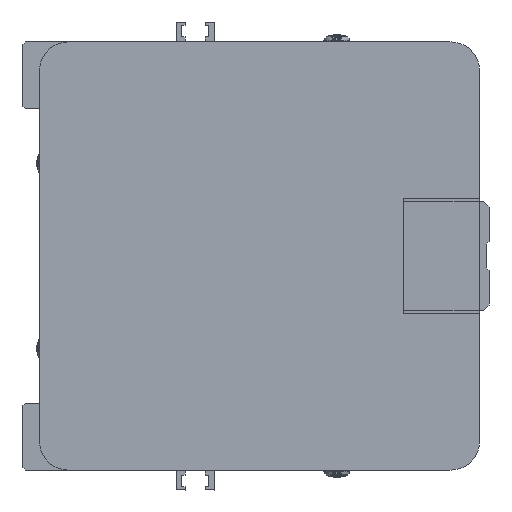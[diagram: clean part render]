
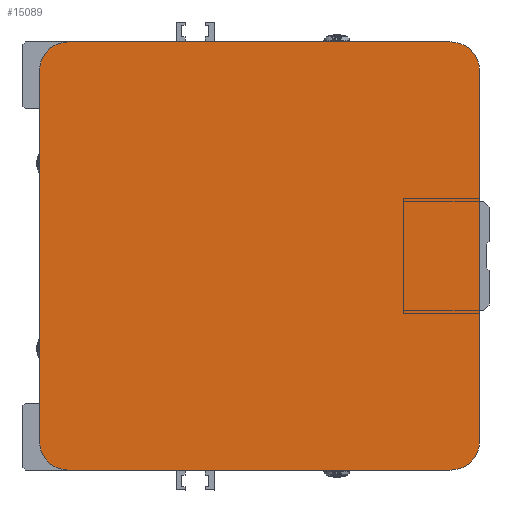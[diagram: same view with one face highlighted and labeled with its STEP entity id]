
A CAD part, left-side view. The second image highlights one B-rep face of the part: STEP entity #15089.
In plain terms, the highlighted planar face has unit normal (-1, 0, 0) as drawn and (0, 0, -1) by its records, which use the part's own axes.
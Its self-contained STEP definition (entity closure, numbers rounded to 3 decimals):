
#1201=CIRCLE('',#16093,6.);
#1203=CIRCLE('',#16098,6.);
#1204=CIRCLE('',#16104,6.);
#1205=CIRCLE('',#16106,6.);
#2110=FACE_OUTER_BOUND('',#3009,.T.);
#3009=EDGE_LOOP('',(#10559,#10560,#10561,#10562,#10563,#10564,#10565,#10566));
#4149=LINE('',#21646,#5394);
#4167=LINE('',#21685,#5412);
#4171=LINE('',#21697,#5416);
#4173=LINE('',#21704,#5418);
#5394=VECTOR('',#17697,78.);
#5412=VECTOR('',#17731,80.5);
#5416=VECTOR('',#17745,80.5);
#5418=VECTOR('',#17753,78.);
#6638=VERTEX_POINT('',#21640);
#6639=VERTEX_POINT('',#21644);
#6651=VERTEX_POINT('',#21682);
#6652=VERTEX_POINT('',#21684);
#6654=VERTEX_POINT('',#21693);
#6655=VERTEX_POINT('',#21695);
#6656=VERTEX_POINT('',#21699);
#6657=VERTEX_POINT('',#21703);
#8180=EDGE_CURVE('',#6639,#6638,#4149,.T.);
#8200=EDGE_CURVE('',#6651,#6652,#4167,.T.);
#8202=EDGE_CURVE('',#6652,#6639,#1201,.T.);
#8206=EDGE_CURVE('',#6655,#6654,#4171,.T.);
#8207=EDGE_CURVE('',#6654,#6656,#1203,.T.);
#8209=EDGE_CURVE('',#6656,#6657,#4173,.T.);
#8225=EDGE_CURVE('',#6657,#6651,#1204,.T.);
#8226=EDGE_CURVE('',#6638,#6655,#1205,.T.);
#10559=ORIENTED_EDGE('',*,*,#8207,.F.);
#10560=ORIENTED_EDGE('',*,*,#8206,.F.);
#10561=ORIENTED_EDGE('',*,*,#8226,.F.);
#10562=ORIENTED_EDGE('',*,*,#8180,.F.);
#10563=ORIENTED_EDGE('',*,*,#8202,.F.);
#10564=ORIENTED_EDGE('',*,*,#8200,.F.);
#10565=ORIENTED_EDGE('',*,*,#8225,.F.);
#10566=ORIENTED_EDGE('',*,*,#8209,.F.);
#14560=PLANE('',#16117);
#15089=ADVANCED_FACE('',(#2110),#14560,.T.);
#16093=AXIS2_PLACEMENT_3D('',#21688,#17735,#17736);
#16098=AXIS2_PLACEMENT_3D('',#21700,#17748,#17749);
#16104=AXIS2_PLACEMENT_3D('',#21732,#17777,#17778);
#16106=AXIS2_PLACEMENT_3D('',#21734,#17781,#17782);
#16117=AXIS2_PLACEMENT_3D('',#21753,#17808,#17809);
#17697=DIRECTION('',(1.,0.,0.));
#17731=DIRECTION('',(0.,-1.,0.));
#17735=DIRECTION('center_axis',(0.,0.,
1.));
#17736=DIRECTION('ref_axis',(-1.,0.,0.));
#17745=DIRECTION('',(0.,1.,0.));
#17748=DIRECTION('center_axis',(0.,0.,
1.));
#17749=DIRECTION('ref_axis',(1.,0.,0.));
#17753=DIRECTION('',(-1.,0.,0.));
#17777=DIRECTION('center_axis',(0.,0.,
1.));
#17778=DIRECTION('ref_axis',(0.,1.,0.));
#17781=DIRECTION('center_axis',(0.,0.,
1.));
#17782=DIRECTION('ref_axis',(0.,-1.,0.));
#17808=DIRECTION('center_axis',(0.,0.,
-1.));
#17809=DIRECTION('ref_axis',(0.545,-0.839,0.));
#21640=CARTESIAN_POINT('',(88.204,2.,-736.));
#21644=CARTESIAN_POINT('',(10.204,2.,-736.));
#21646=CARTESIAN_POINT('',(10.204,2.,-736.));
#21682=CARTESIAN_POINT('',(4.204,88.5,-736.));
#21684=CARTESIAN_POINT('',(4.204,8.,-736.));
#21685=CARTESIAN_POINT('',(4.204,88.5,-736.));
#21688=CARTESIAN_POINT('Origin',(10.204,8.,-736.));
#21693=CARTESIAN_POINT('',(94.204,88.5,-736.));
#21695=CARTESIAN_POINT('',(94.204,8.,-736.));
#21697=CARTESIAN_POINT('',(94.204,8.,-736.));
#21699=CARTESIAN_POINT('',(88.204,94.5,-736.));
#21700=CARTESIAN_POINT('Origin',(88.204,88.5,-736.));
#21703=CARTESIAN_POINT('',(10.204,94.5,-736.));
#21704=CARTESIAN_POINT('',(88.204,94.5,-736.));
#21732=CARTESIAN_POINT('Origin',(10.204,88.5,-736.));
#21734=CARTESIAN_POINT('Origin',(88.204,8.,-736.));
#21753=CARTESIAN_POINT('Origin',(49.204,26.,-736.));
